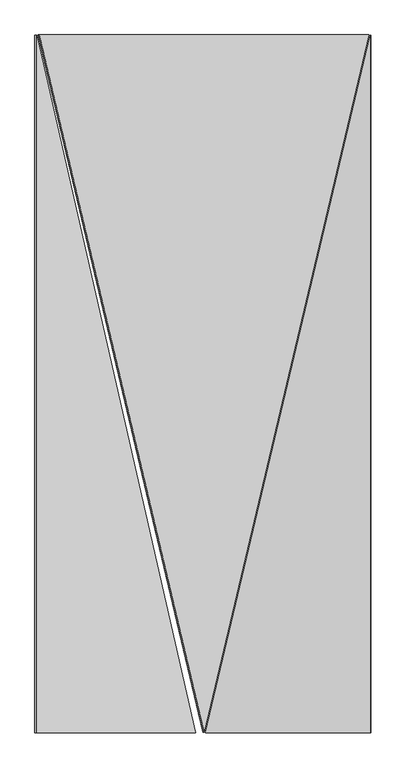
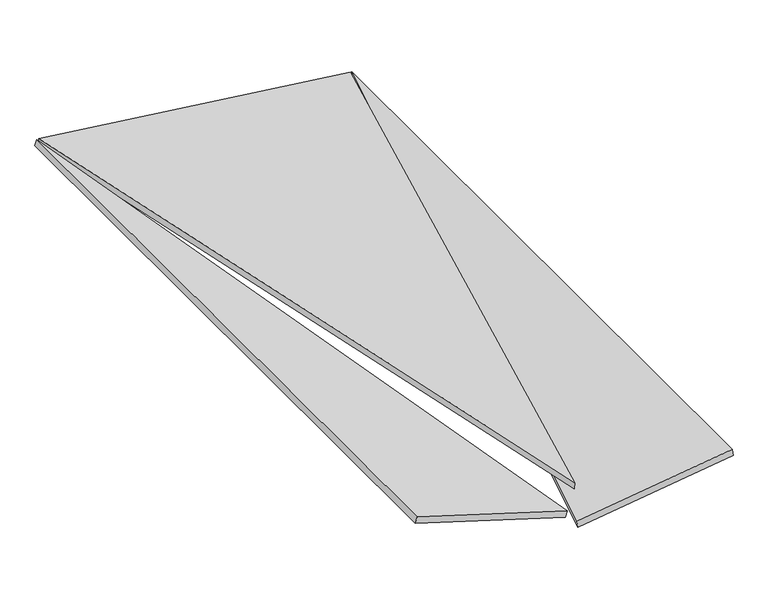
"""IFC4 building model written with IfcOpenShell, lengths in millimetres: proxy geometry, panel sufitowy 6 : panel sufitowy 6."""

from ifc_helpers import new_model, si_unit, frame, origin, place, context, project, spatial, polyline, outline, extrude, source, transform, mapped, element, save


def generic_models_5af88551(model_context):
    return source(origin(), model_context, "Body", "SweptSolid", [
        extrude(outline(polyline([(-900.9098917, 0.0), (1235.4098448, 0.0), (1006.1909889, -962.7191946), (-900.9098917, 0.0)])), frame((545.0613089, -1457.4151922, 1117.5874869), z_axis=(0.12186934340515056, 0.0, 0.9925461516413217), x_axis=(-0.22989406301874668, 0.9728062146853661, 0.028227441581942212)), (0.0, 0.0, 1.0), 20.0),
        extrude(outline(polyline([(-127.4999999, 0.0), (-622.5, 0.0), (-127.4999999, 2079.0), (-127.4999999, 0.0)])), frame((1379.3926737, -2335.0, 1048.3917248), z_axis=(-0.1391731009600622, 0.0, 0.9902680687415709), x_axis=(0.9902680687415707, 0.0, 0.13917310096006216)), (0.0, 0.0, 1.0), 20.0),
        extrude(outline(polyline([(-127.5, 0.0), (-127.5, -2079.0), (-622.5, 0.0), (-127.5, 0.0)])), frame((128.7330254, -2335.0, 1191.0125836), z_axis=(0.29237170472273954, 0.0, 0.9563047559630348), x_axis=(-0.9563047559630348, 0.0, 0.29237170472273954)), (0.0, 0.0, 1.0), 20.0),
    ])


if __name__ == "__main__":
    model = new_model("IFC4")
    model_context = context("Model", 3, world=origin())
    ifc_project = project(units=[si_unit("LENGTHUNIT", "METRE", prefix="MILLI")], contexts=[model_context])
    site = spatial("IfcSite", under=ifc_project)
    building = spatial("IfcBuilding", under=site)
    placement = place(None, origin())
    generic_models_shape = generic_models_5af88551(model_context)
    element("IfcBuildingElementProxy", 1, Name="panel sufitowy 6 : panel sufitowy 6", ObjectType="panel sufitowy 6 : panel sufitowy 6", at=placement, inside=building, context=model_context, shape_type="MappedRepresentation", body=[
        mapped(generic_models_shape, transform((0.0, 0.0, 0.0), x_axis=(1.0, 0.0, 0.0), y_axis=(0.0, 1.0, 0.0), z_axis=(0.0, 0.0, 1.0))),
    ])
    save(model, "model.ifc")
